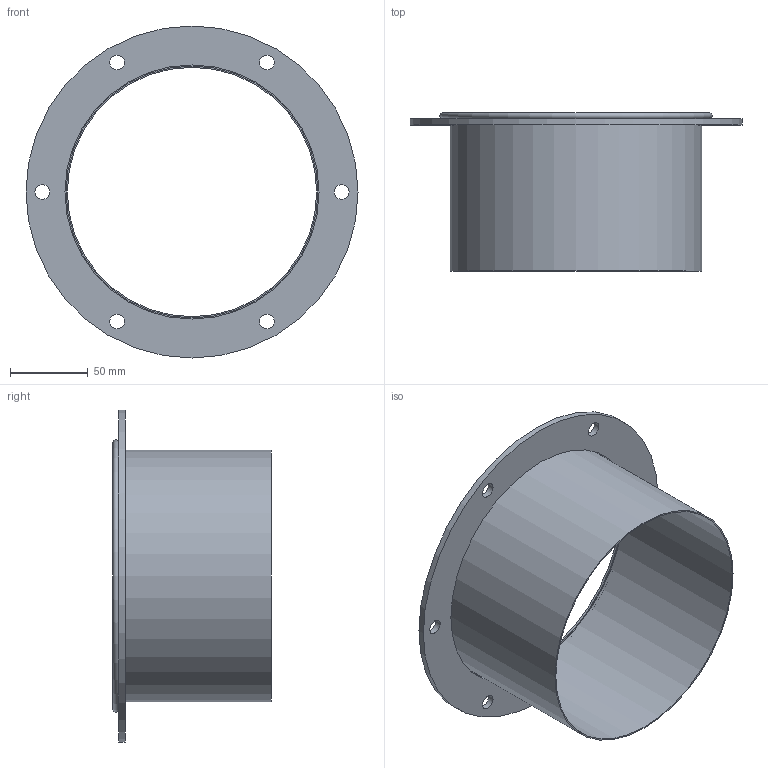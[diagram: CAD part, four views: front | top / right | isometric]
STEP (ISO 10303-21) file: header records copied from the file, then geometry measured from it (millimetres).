
FILE_DESCRIPTION(/* description */ (''),/* implementation_level */ '2;1');
FILE_NAME(/* name */ 'METU_AA125-41B_160_L100.stp',/* time_stamp */ '2018-10-10T11:36:58+02:00',/* author */ (''),/* organization */ (''),/* preprocessor_version */ 'ST-DEVELOPER v11',/* originating_system */ 'SIEMENS UGS NX 6.0',/* authorisation */ '');
FILE_SCHEMA (('CONFIG_CONTROL_DESIGN'));
Length unit declared in the file: millimetre
Products named in the file (1): garsCF17ddsw
Bounding box: 213 x 101.5 x 213 mm (x, y, z)
Volume: 110509.6 mm3; surface area: 157091 mm2
Topology: 3 solids, 3 shells, 25 faces, 55 edges, 39 vertices
Faces by surface type: cylinder 14, plane 9, torus 2
Full cylindrical faces by diameter (mm): 9.5 x6, 160 x2, 161.6 x2, 163 x1, 171.6 x2, 213 x1
Entity records: 682 total; most frequent: DIRECTION 114, CARTESIAN_POINT 88, FACE_BOUND 62, EDGE_LOOP 62, ORIENTED_EDGE 62, AXIS2_PLACEMENT_3D 57, VERTEX_POINT 31, EDGE_CURVE 31
